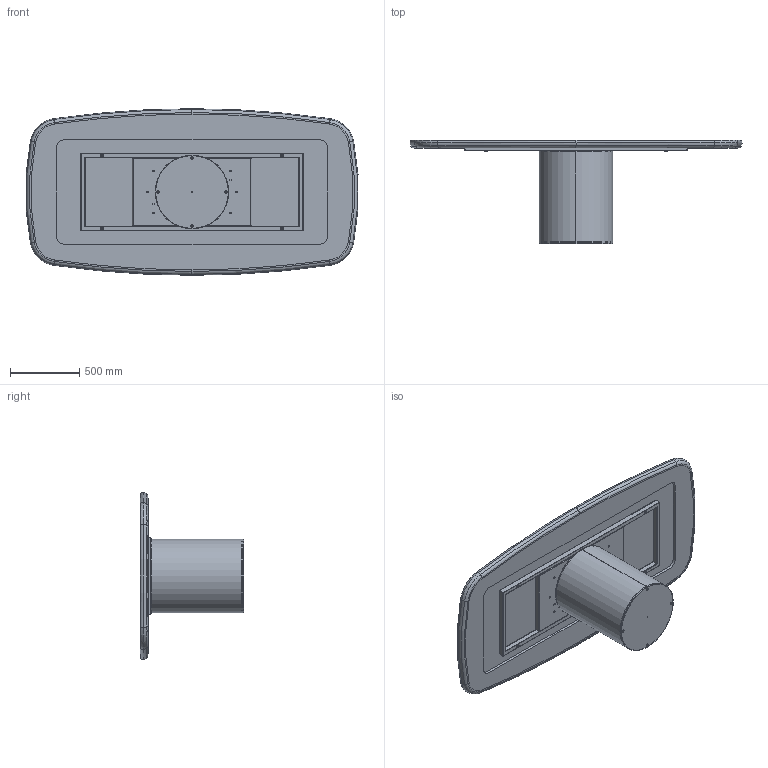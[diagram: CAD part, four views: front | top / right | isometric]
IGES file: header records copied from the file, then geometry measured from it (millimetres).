
Start section: SolidWorks IGES file using analytic representation for surfaces
Global section: file name: Y:\eforma\TECNICO\SOLIDWORKS\E-FORMA\1-TAVOLI\CILINDRO\02 parts\CI42K_Cilindro_240x120_King.IGS; native system: SolidWorks 2022; preprocessor: SolidWorks 2022; author: eforma.tech; date: 240801.145944; units: millimetre
Bounding box: 2391.93 x 746 x 1200 mm (x, y, z)
Volume: 124937753.5 mm3; surface area: 15941759.9 mm2
Topology: 29 solids, 29 shells, 969 faces, 2226 edges, 1280 vertices
Faces by surface type: revolution 597, plane 372
